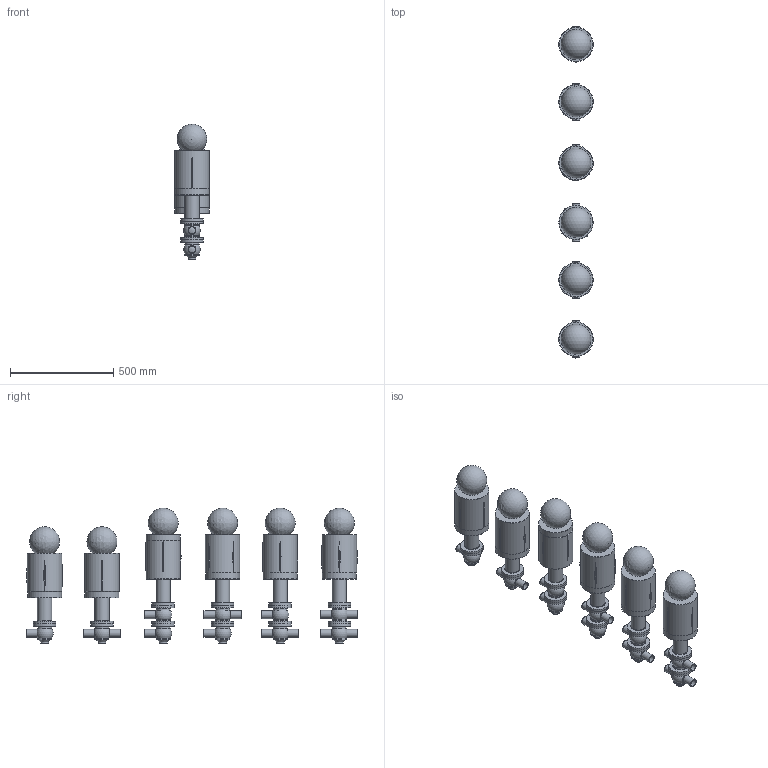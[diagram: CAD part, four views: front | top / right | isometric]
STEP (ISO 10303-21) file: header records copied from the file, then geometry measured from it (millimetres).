
FILE_DESCRIPTION(/* description */ (''),/* implementation_level */ '2;1');
FILE_NAME(/* name */ 'C:\Users\marz-m\Desktop\PDF\BBZQ 3D STEP\BBZQ-DN381-CIL.156.stp',/* time_stamp */ '2018-04-13T14:45:36+02:00',/* author */ ('marz-m'),/* organization */ (''),/* preprocessor_version */ 'ST-DEVELOPER v17',/* originating_system */ 'Autodesk Inventor 2018',/* authorisation */ '');
FILE_SCHEMA (('AUTOMOTIVE_DESIGN { 1 0 10303 214 3 1 1 }'));
Length unit declared in the file: millimetre
Products named in the file (8): BBZQ-CIL.156-DN381; COR-INF-L-BBZQ-DN381X2.5-SALD; COR-INF-T-BBZQ-DN381X2.5-SALD; assemblaggio dn40 per cil 108-156; CIL156; SAGOMA-GIOTTO-; CORPO-SUP-SUP-BBZQ-L-DN381-SALD; CORPO-SUP-SUP-BBZQ-T-DN381-SALD
Assembly tree (28 placements, depth 2):
  BBZQ-CIL.156-DN381
    COR-INF-L-BBZQ-DN381X2.5-SALD  x3
    COR-INF-T-BBZQ-DN381X2.5-SALD  x3
    assemblaggio dn40 per cil 108-156  x6
    CIL156  x6
    SAGOMA-GIOTTO-  x6
    CORPO-SUP-SUP-BBZQ-L-DN381-SALD  x2
    CORPO-SUP-SUP-BBZQ-T-DN381-SALD  x2
Bounding box: 172.04 x 1605.61 x 655.97 mm (x, y, z)
Volume: 45375852.9 mm3; surface area: 2274741.4 mm2
Topology: 28 solids, 28 shells, 386 faces, 909 edges, 662 vertices
Faces by surface type: cylinder 112, plane 109, cone 72, torus 38, sphere 31, bspline 24
Full cylindrical faces by diameter (mm): 20 x12, 33.1 x21, 38.1 x21, 68 x20, 69 x6, 109 x20, 164.5 x6, 166 x6
Entity records: 3885 total; most frequent: CARTESIAN_POINT 866, DIRECTION 670, ORIENTED_EDGE 486, AXIS2_PLACEMENT_3D 314, EDGE_CURVE 243, VERTEX_POINT 178, CIRCLE 175, EDGE_LOOP 135
